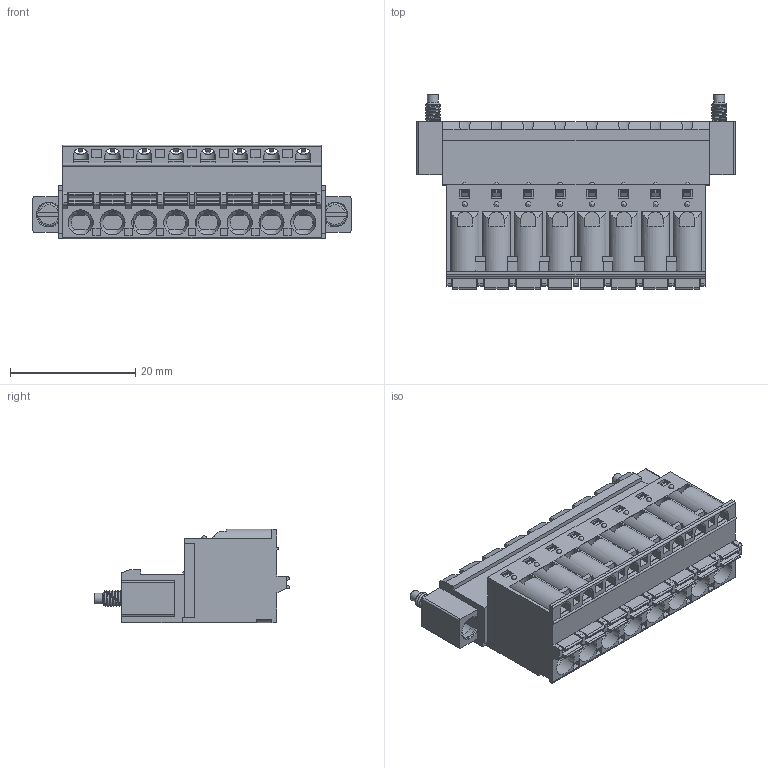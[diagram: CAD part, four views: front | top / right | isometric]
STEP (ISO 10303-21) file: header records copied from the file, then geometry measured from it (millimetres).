
FILE_DESCRIPTION(('STEP AP203'), '1');
FILE_NAME('WJ2EDGKDRM-5.08-08P', '', ('UNSPECIFIED'), ('UNSPECIFIED'), 'C3D Converter', 'C3D Toolkit', '');
FILE_SCHEMA(('CONFIG_CONTROL_DESIGN'));
Length unit declared in the file: millimetre
Products named in the file (2): KLR2GKDRM-5.08-08P
Assembly tree (1 placements, depth 2):
  KLR2GKDRM-5.08-08P
    KLR2GKDRM-5.08-08P
Bounding box: 50.8 x 31.15 x 15 mm (x, y, z)
Volume: 9032.5 mm3; surface area: 10845.9 mm2
Topology: 1 solids, 9 shells, 1728 faces, 4868 edges, 3153 vertices
Faces by surface type: plane 1350, cylinder 261, bspline 49, cone 30, torus 22, sphere 16
Full cylindrical faces by diameter (mm): 1.74 x2, 2.6 x2, 4 x8
Entity records: 83292 total; most frequent: CARTESIAN_POINT 25158, ORIENTED_EDGE 9602, DIRECTION 8444, EDGE_CURVE 4801, LINE 3900, VECTOR 3900, VERTEX_POINT 3140, AXIS2_PLACEMENT_3D 2272
